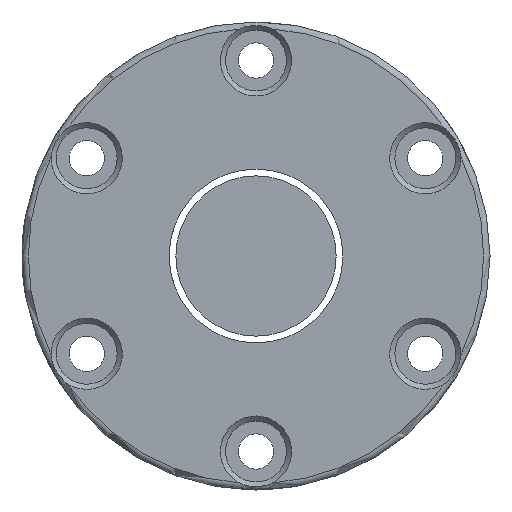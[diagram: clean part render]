
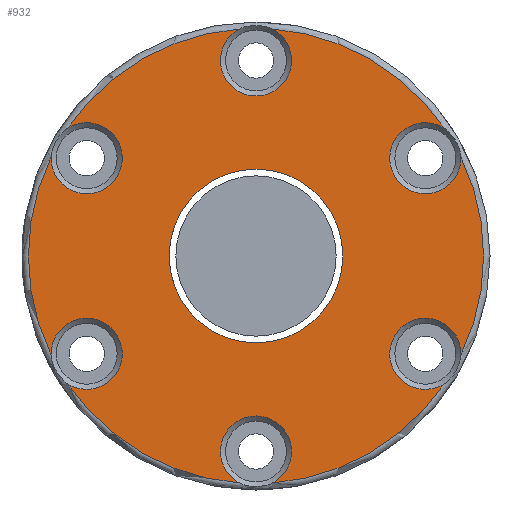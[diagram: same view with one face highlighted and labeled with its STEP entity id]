
A CAD part, left-side view. The second image highlights one B-rep face of the part: STEP entity #932.
In plain terms, the highlighted planar face has unit normal (-1, 0, 0).
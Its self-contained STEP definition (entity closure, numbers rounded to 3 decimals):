
#7 = CIRCLE ( 'NONE', #728, 35.5 ) ;
#11 = CARTESIAN_POINT ( 'NONE',  ( -83., 31.96, 15.453 ) ) ;
#18 = CARTESIAN_POINT ( 'NONE',  ( -83., -29.363, -19.952 ) ) ;
#27 = EDGE_CURVE ( 'NONE', #1200, #2951, #1985, .T. ) ;
#73 = AXIS2_PLACEMENT_3D ( 'NONE', #1241, #2031, #1456 ) ;
#104 = DIRECTION ( 'NONE',  ( -1., 0., 0. ) ) ;
#122 = DIRECTION ( 'NONE',  ( 0., 0., 1. ) ) ;
#128 = CIRCLE ( 'NONE', #73, 5.55 ) ;
#160 = DIRECTION ( 'NONE',  ( 0., 0., 1. ) ) ;
#185 = EDGE_CURVE ( 'NONE', #795, #1716, #2291, .T. ) ;
#186 = AXIS2_PLACEMENT_3D ( 'NONE', #1660, #1076, #3090 ) ;
#214 = EDGE_CURVE ( 'NONE', #525, #1844, #7, .T. ) ;
#229 = FACE_BOUND ( 'NONE', #744, .T. ) ;
#262 = CIRCLE ( 'NONE', #3448, 5.55 ) ;
#279 = CARTESIAN_POINT ( 'NONE',  ( -83., 0., 0. ) ) ;
#303 = EDGE_LOOP ( 'NONE', ( #3073, #2091, #3242, #1524, #2218, #3605, #3635, #2667, #1411, #1075, #832, #1132 ) ) ;
#375 = EDGE_CURVE ( 'NONE', #1056, #2956, #611, .T. ) ;
#411 = CARTESIAN_POINT ( 'NONE',  ( -83., 31.96, -15.453 ) ) ;
#416 = DIRECTION ( 'NONE',  ( -1., 0., 0. ) ) ;
#491 = FACE_OUTER_BOUND ( 'NONE', #303, .T. ) ;
#525 = VERTEX_POINT ( 'NONE', #1899 ) ;
#611 = CIRCLE ( 'NONE', #2536, 35.5 ) ;
#617 = CIRCLE ( 'NONE', #2662, 5.55 ) ;
#642 = DIRECTION ( 'NONE',  ( 0., 0., -1. ) ) ;
#692 = DIRECTION ( 'NONE',  ( 0., 0., 1. ) ) ;
#720 = CARTESIAN_POINT ( 'NONE',  ( -83., 0., 0. ) ) ;
#727 = DIRECTION ( 'NONE',  ( -1., 0., 0. ) ) ;
#728 = AXIS2_PLACEMENT_3D ( 'NONE', #2400, #104, #160 ) ;
#744 = EDGE_LOOP ( 'NONE', ( #3565 ) ) ;
#768 = CARTESIAN_POINT ( 'NONE',  ( -83., -2.597, -35.405 ) ) ;
#769 = EDGE_CURVE ( 'NONE', #3106, #1200, #2471, .T. ) ;
#782 = DIRECTION ( 'NONE',  ( 1., 0., 0. ) ) ;
#795 = VERTEX_POINT ( 'NONE', #1460 ) ;
#820 = DIRECTION ( 'NONE',  ( 0., 0., 1. ) ) ;
#832 = ORIENTED_EDGE ( 'NONE', *, *, #2349, .T. ) ;
#932 = ADVANCED_FACE ( 'NONE', ( #491, #229 ), #2792, .T. ) ;
#1056 = VERTEX_POINT ( 'NONE', #1209 ) ;
#1075 = ORIENTED_EDGE ( 'NONE', *, *, #214, .T. ) ;
#1076 = DIRECTION ( 'NONE',  ( -1., 0., 0. ) ) ;
#1132 = ORIENTED_EDGE ( 'NONE', *, *, #185, .T. ) ;
#1148 = DIRECTION ( 'NONE',  ( 0., 0., 1. ) ) ;
#1200 = VERTEX_POINT ( 'NONE', #768 ) ;
#1209 = CARTESIAN_POINT ( 'NONE',  ( -83., 2.597, 35.405 ) ) ;
#1241 = CARTESIAN_POINT ( 'NONE',  ( -83., 0., 30.5 ) ) ;
#1273 = CARTESIAN_POINT ( 'NONE',  ( -83., 0., 0. ) ) ;
#1298 = DIRECTION ( 'NONE',  ( 1., 0., 0. ) ) ;
#1299 = DIRECTION ( 'NONE',  ( 1., 0., 0. ) ) ;
#1323 = DIRECTION ( 'NONE',  ( 1., 0., 0. ) ) ;
#1332 = DIRECTION ( 'NONE',  ( 0., 0., 1. ) ) ;
#1369 = VERTEX_POINT ( 'NONE', #3283 ) ;
#1407 = AXIS2_PLACEMENT_3D ( 'NONE', #3251, #1298, #2150 ) ;
#1411 = ORIENTED_EDGE ( 'NONE', *, *, #3430, .T. ) ;
#1456 = DIRECTION ( 'NONE',  ( 0., 0., 1. ) ) ;
#1460 = CARTESIAN_POINT ( 'NONE',  ( -83., -29.363, 19.952 ) ) ;
#1469 = CIRCLE ( 'NONE', #1407, 5.55 ) ;
#1487 = EDGE_CURVE ( 'NONE', #2430, #1956, #1811, .T. ) ;
#1518 = AXIS2_PLACEMENT_3D ( 'NONE', #2751, #1323, #2195 ) ;
#1524 = ORIENTED_EDGE ( 'NONE', *, *, #1487, .T. ) ;
#1539 = AXIS2_PLACEMENT_3D ( 'NONE', #3339, #3268, #692 ) ;
#1640 = EDGE_CURVE ( 'NONE', #1956, #1369, #617, .T. ) ;
#1660 = CARTESIAN_POINT ( 'NONE',  ( -83., 36.5, 0. ) ) ;
#1709 = CIRCLE ( 'NONE', #1539, 5.55 ) ;
#1716 = VERTEX_POINT ( 'NONE', #2778 ) ;
#1773 = AXIS2_PLACEMENT_3D ( 'NONE', #2439, #727, #122 ) ;
#1811 = CIRCLE ( 'NONE', #2474, 35.5 ) ;
#1820 = CARTESIAN_POINT ( 'NONE',  ( -83., 2.597, -35.405 ) ) ;
#1827 = CIRCLE ( 'NONE', #1773, 35.5 ) ;
#1844 = VERTEX_POINT ( 'NONE', #3131 ) ;
#1889 = CARTESIAN_POINT ( 'NONE',  ( -83., 26.414, -15.25 ) ) ;
#1899 = CARTESIAN_POINT ( 'NONE',  ( -83., -31.96, -15.453 ) ) ;
#1954 = DIRECTION ( 'NONE',  ( -1., 0., 0. ) ) ;
#1956 = VERTEX_POINT ( 'NONE', #411 ) ;
#1985 = CIRCLE ( 'NONE', #3307, 35.5 ) ;
#2031 = DIRECTION ( 'NONE',  ( 1., 0., 0. ) ) ;
#2091 = ORIENTED_EDGE ( 'NONE', *, *, #375, .T. ) ;
#2114 = DIRECTION ( 'NONE',  ( 0., 0., 1. ) ) ;
#2130 = DIRECTION ( 'NONE',  ( -1., 0., 0. ) ) ;
#2150 = DIRECTION ( 'NONE',  ( 0., 0., 1. ) ) ;
#2195 = DIRECTION ( 'NONE',  ( 0., 0., 1. ) ) ;
#2209 = CARTESIAN_POINT ( 'NONE',  ( -83., 0., -13.55 ) ) ;
#2218 = ORIENTED_EDGE ( 'NONE', *, *, #1640, .T. ) ;
#2228 = VERTEX_POINT ( 'NONE', #2209 ) ;
#2291 = CIRCLE ( 'NONE', #3492, 35.5 ) ;
#2329 = DIRECTION ( 'NONE',  ( 1., 0., 0. ) ) ;
#2349 = EDGE_CURVE ( 'NONE', #1844, #795, #1469, .T. ) ;
#2400 = CARTESIAN_POINT ( 'NONE',  ( -83., 0., 0. ) ) ;
#2430 = VERTEX_POINT ( 'NONE', #11 ) ;
#2436 = CARTESIAN_POINT ( 'NONE',  ( -83., 0., 0. ) ) ;
#2439 = CARTESIAN_POINT ( 'NONE',  ( -83., 0., 0. ) ) ;
#2471 = CIRCLE ( 'NONE', #1518, 5.55 ) ;
#2474 = AXIS2_PLACEMENT_3D ( 'NONE', #2436, #2130, #1332 ) ;
#2536 = AXIS2_PLACEMENT_3D ( 'NONE', #720, #416, #3501 ) ;
#2538 = AXIS2_PLACEMENT_3D ( 'NONE', #2644, #2329, #642 ) ;
#2609 = CIRCLE ( 'NONE', #2538, 13.55 ) ;
#2644 = CARTESIAN_POINT ( 'NONE',  ( -83., 0., 0. ) ) ;
#2662 = AXIS2_PLACEMENT_3D ( 'NONE', #1889, #782, #820 ) ;
#2667 = ORIENTED_EDGE ( 'NONE', *, *, #27, .T. ) ;
#2704 = DIRECTION ( 'NONE',  ( 0., 0., 1. ) ) ;
#2724 = CARTESIAN_POINT ( 'NONE',  ( -83., -26.414, -15.25 ) ) ;
#2751 = CARTESIAN_POINT ( 'NONE',  ( -83., 0., -30.5 ) ) ;
#2778 = CARTESIAN_POINT ( 'NONE',  ( -83., -2.597, 35.405 ) ) ;
#2792 = PLANE ( 'NONE',  #186 ) ;
#2894 = EDGE_CURVE ( 'NONE', #1716, #1056, #128, .T. ) ;
#2922 = EDGE_CURVE ( 'NONE', #2228, #2228, #2609, .T. ) ;
#2951 = VERTEX_POINT ( 'NONE', #18 ) ;
#2956 = VERTEX_POINT ( 'NONE', #3474 ) ;
#2987 = DIRECTION ( 'NONE',  ( -1., 0., 0. ) ) ;
#3073 = ORIENTED_EDGE ( 'NONE', *, *, #2894, .T. ) ;
#3090 = DIRECTION ( 'NONE',  ( 0., 0., 1. ) ) ;
#3106 = VERTEX_POINT ( 'NONE', #1820 ) ;
#3131 = CARTESIAN_POINT ( 'NONE',  ( -83., -31.96, 15.453 ) ) ;
#3242 = ORIENTED_EDGE ( 'NONE', *, *, #3278, .T. ) ;
#3251 = CARTESIAN_POINT ( 'NONE',  ( -83., -26.414, 15.25 ) ) ;
#3268 = DIRECTION ( 'NONE',  ( 1., 0., 0. ) ) ;
#3278 = EDGE_CURVE ( 'NONE', #2956, #2430, #1709, .T. ) ;
#3283 = CARTESIAN_POINT ( 'NONE',  ( -83., 29.363, -19.952 ) ) ;
#3307 = AXIS2_PLACEMENT_3D ( 'NONE', #279, #1954, #1148 ) ;
#3339 = CARTESIAN_POINT ( 'NONE',  ( -83., 26.414, 15.25 ) ) ;
#3430 = EDGE_CURVE ( 'NONE', #2951, #525, #262, .T. ) ;
#3448 = AXIS2_PLACEMENT_3D ( 'NONE', #2724, #1299, #2704 ) ;
#3474 = CARTESIAN_POINT ( 'NONE',  ( -83., 29.363, 19.952 ) ) ;
#3492 = AXIS2_PLACEMENT_3D ( 'NONE', #1273, #2987, #2114 ) ;
#3501 = DIRECTION ( 'NONE',  ( 0., 0., 1. ) ) ;
#3533 = EDGE_CURVE ( 'NONE', #1369, #3106, #1827, .T. ) ;
#3565 = ORIENTED_EDGE ( 'NONE', *, *, #2922, .T. ) ;
#3605 = ORIENTED_EDGE ( 'NONE', *, *, #3533, .T. ) ;
#3635 = ORIENTED_EDGE ( 'NONE', *, *, #769, .T. ) ;
